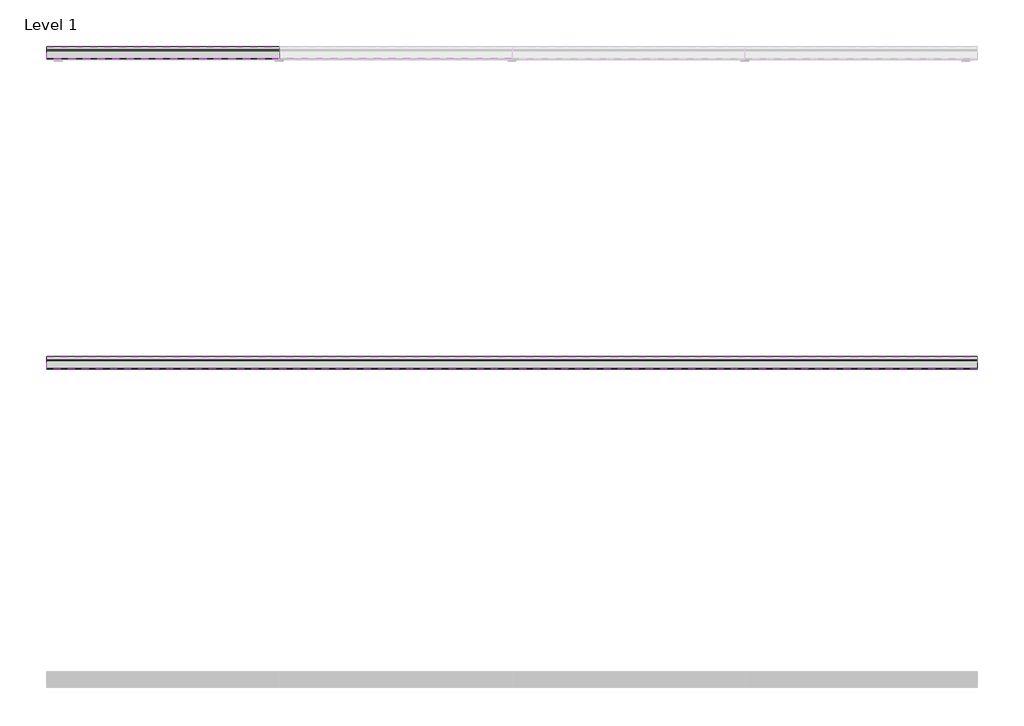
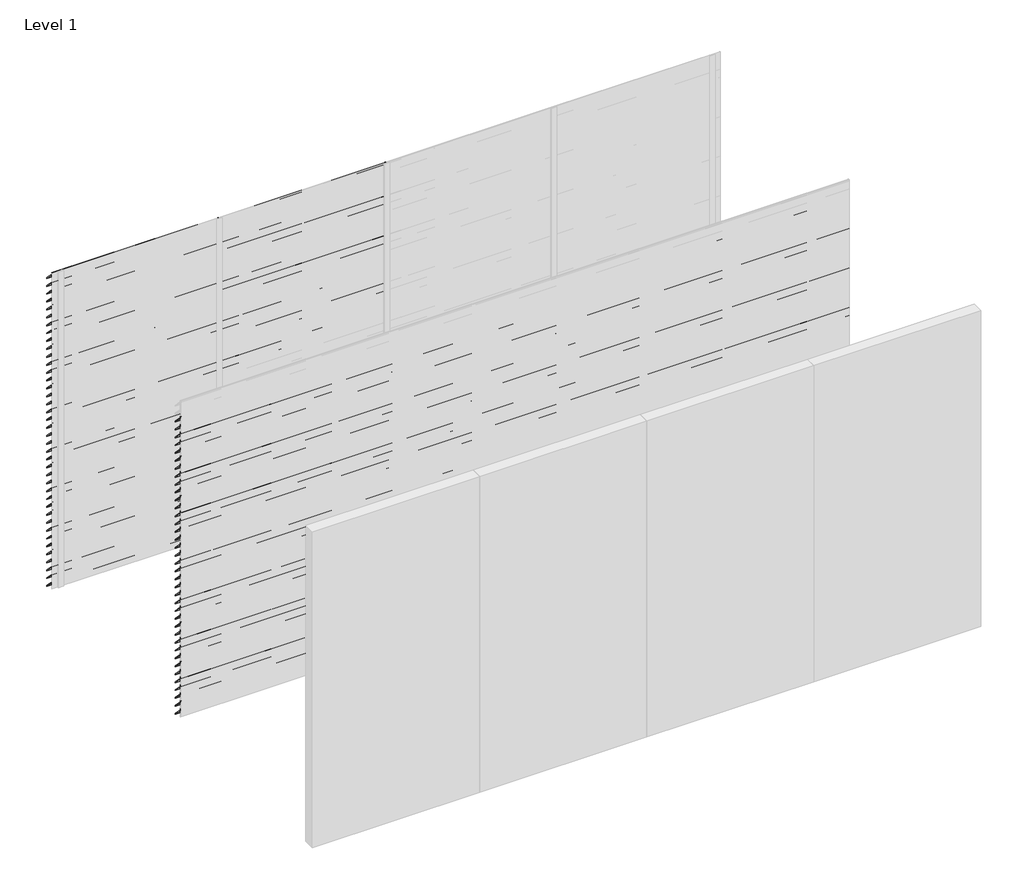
# One storey, part 8 of 9: 98 proxies.
"""IFC4 building model written with IfcOpenShell, lengths in millimetres."""

from ifc_helpers import new_model, si_unit, frame, origin, place, context, project, spatial, polyline, outline, extrude, element, save

model = new_model("IFC4")

# Units and contexts
model_context = context("Model", 3, world=origin())
ifc_project = project(units=[si_unit("LENGTHUNIT", "METRE", prefix="MILLI")], contexts=[model_context])

# Site, building, storey
site = spatial("IfcSite", under=ifc_project)
building = spatial("IfcBuilding", under=site)
storey = spatial("IfcBuildingStorey", under=building, Name="Level 1", Elevation=0.0)

# Proxies
placement = place(None, origin())
element("IfcBuildingElementProxy", 1, Name="Wall Sweeps", at=placement, inside=storey, context=model_context, shape_type="SweptSolid", body=[
    extrude(outline(polyline([(5.0, 3000.0), (5.0, 2987.7713645), (83.0, 2907.0), (83.0, 2898.0), (3.0, 2980.8424251), (3.0, 3000.0), (5.0, 3000.0)])), frame((0.0, 0.0, 0.0), z_axis=(1.0, 0.0, 0.0), x_axis=(0.0, 1.0, 0.0)), (0.0, 0.0, 1.0), 1500.0),
])
element("IfcBuildingElementProxy", 2, Name="Wall Sweeps", at=placement, inside=storey, context=model_context, shape_type="SweptSolid", body=[
    extrude(outline(polyline([(5.0, 2925.0), (5.0, 2912.7713645), (83.0, 2832.0), (83.0, 2823.0), (3.0, 2905.8424251), (3.0, 2925.0), (5.0, 2925.0)])), frame((0.0, 0.0, 0.0), z_axis=(1.0, 0.0, 0.0), x_axis=(0.0, 1.0, 0.0)), (0.0, 0.0, 1.0), 1500.0),
])
element("IfcBuildingElementProxy", 3, Name="Wall Sweeps", at=placement, inside=storey, context=model_context, shape_type="SweptSolid", body=[
    extrude(outline(polyline([(5.0, 2850.0), (5.0, 2837.7713645), (83.0, 2757.0), (83.0, 2748.0), (3.0, 2830.8424251), (3.0, 2850.0), (5.0, 2850.0)])), frame((0.0, 0.0, 0.0), z_axis=(1.0, 0.0, 0.0), x_axis=(0.0, 1.0, 0.0)), (0.0, 0.0, 1.0), 1500.0),
])
element("IfcBuildingElementProxy", 4, Name="Wall Sweeps", at=placement, inside=storey, context=model_context, shape_type="SweptSolid", body=[
    extrude(outline(polyline([(5.0, 2775.0), (5.0, 2762.7713645), (83.0, 2682.0), (83.0, 2673.0), (3.0, 2755.8424251), (3.0, 2775.0), (5.0, 2775.0)])), frame((0.0, 0.0, 0.0), z_axis=(1.0, 0.0, 0.0), x_axis=(0.0, 1.0, 0.0)), (0.0, 0.0, 1.0), 1500.0),
])
element("IfcBuildingElementProxy", 5, Name="Wall Sweeps", at=placement, inside=storey, context=model_context, shape_type="SweptSolid", body=[
    extrude(outline(polyline([(5.0, 2700.0), (5.0, 2687.7713645), (83.0, 2607.0), (83.0, 2598.0), (3.0, 2680.8424251), (3.0, 2700.0), (5.0, 2700.0)])), frame((0.0, 0.0, 0.0), z_axis=(1.0, 0.0, 0.0), x_axis=(0.0, 1.0, 0.0)), (0.0, 0.0, 1.0), 1500.0),
])
element("IfcBuildingElementProxy", 6, Name="Wall Sweeps", at=placement, inside=storey, context=model_context, shape_type="SweptSolid", body=[
    extrude(outline(polyline([(5.0, 2625.0), (5.0, 2612.7713645), (83.0, 2532.0), (83.0, 2523.0), (3.0, 2605.8424251), (3.0, 2625.0), (5.0, 2625.0)])), frame((0.0, 0.0, 0.0), z_axis=(1.0, 0.0, 0.0), x_axis=(0.0, 1.0, 0.0)), (0.0, 0.0, 1.0), 1500.0),
])
element("IfcBuildingElementProxy", 7, Name="Wall Sweeps", at=placement, inside=storey, context=model_context, shape_type="SweptSolid", body=[
    extrude(outline(polyline([(5.0, 2550.0), (5.0, 2537.7713645), (83.0, 2457.0), (83.0, 2448.0), (3.0, 2530.8424251), (3.0, 2550.0), (5.0, 2550.0)])), frame((0.0, 0.0, 0.0), z_axis=(1.0, 0.0, 0.0), x_axis=(0.0, 1.0, 0.0)), (0.0, 0.0, 1.0), 1500.0),
])
element("IfcBuildingElementProxy", 8, Name="Wall Sweeps", at=placement, inside=storey, context=model_context, shape_type="SweptSolid", body=[
    extrude(outline(polyline([(5.0, 2475.0), (5.0, 2462.7713645), (83.0, 2382.0), (83.0, 2373.0), (3.0, 2455.8424251), (3.0, 2475.0), (5.0, 2475.0)])), frame((0.0, 0.0, 0.0), z_axis=(1.0, 0.0, 0.0), x_axis=(0.0, 1.0, 0.0)), (0.0, 0.0, 1.0), 1500.0),
])
element("IfcBuildingElementProxy", 9, Name="Wall Sweeps", at=placement, inside=storey, context=model_context, shape_type="SweptSolid", body=[
    extrude(outline(polyline([(5.0, 2400.0), (5.0, 2387.7713645), (83.0, 2307.0), (83.0, 2298.0), (3.0, 2380.8424251), (3.0, 2400.0), (5.0, 2400.0)])), frame((0.0, 0.0, 0.0), z_axis=(1.0, 0.0, 0.0), x_axis=(0.0, 1.0, 0.0)), (0.0, 0.0, 1.0), 1500.0),
])
element("IfcBuildingElementProxy", 10, Name="Wall Sweeps", at=placement, inside=storey, context=model_context, shape_type="SweptSolid", body=[
    extrude(outline(polyline([(5.0, 2325.0), (5.0, 2312.7713645), (83.0, 2232.0), (83.0, 2223.0), (3.0, 2305.8424251), (3.0, 2325.0), (5.0, 2325.0)])), frame((0.0, 0.0, 0.0), z_axis=(1.0, 0.0, 0.0), x_axis=(0.0, 1.0, 0.0)), (0.0, 0.0, 1.0), 1500.0),
])
element("IfcBuildingElementProxy", 11, Name="Wall Sweeps", at=placement, inside=storey, context=model_context, shape_type="SweptSolid", body=[
    extrude(outline(polyline([(5.0, 2250.0), (5.0, 2237.7713645), (83.0, 2157.0), (83.0, 2148.0), (3.0, 2230.8424251), (3.0, 2250.0), (5.0, 2250.0)])), frame((0.0, 0.0, 0.0), z_axis=(1.0, 0.0, 0.0), x_axis=(0.0, 1.0, 0.0)), (0.0, 0.0, 1.0), 1500.0),
])
element("IfcBuildingElementProxy", 12, Name="Wall Sweeps", at=placement, inside=storey, context=model_context, shape_type="SweptSolid", body=[
    extrude(outline(polyline([(5.0, 2175.0), (5.0, 2162.7713645), (83.0, 2082.0), (83.0, 2073.0), (3.0, 2155.8424251), (3.0, 2175.0), (5.0, 2175.0)])), frame((0.0, 0.0, 0.0), z_axis=(1.0, 0.0, 0.0), x_axis=(0.0, 1.0, 0.0)), (0.0, 0.0, 1.0), 1500.0),
])
element("IfcBuildingElementProxy", 13, Name="Wall Sweeps", at=placement, inside=storey, context=model_context, shape_type="SweptSolid", body=[
    extrude(outline(polyline([(5.0, 2100.0), (5.0, 2087.7713645), (83.0, 2007.0), (83.0, 1998.0), (3.0, 2080.8424251), (3.0, 2100.0), (5.0, 2100.0)])), frame((0.0, 0.0, 0.0), z_axis=(1.0, 0.0, 0.0), x_axis=(0.0, 1.0, 0.0)), (0.0, 0.0, 1.0), 1500.0),
])
element("IfcBuildingElementProxy", 14, Name="Wall Sweeps", at=placement, inside=storey, context=model_context, shape_type="SweptSolid", body=[
    extrude(outline(polyline([(5.0, 2025.0), (5.0, 2012.7713645), (83.0, 1932.0), (83.0, 1923.0), (3.0, 2005.8424251), (3.0, 2025.0), (5.0, 2025.0)])), frame((0.0, 0.0, 0.0), z_axis=(1.0, 0.0, 0.0), x_axis=(0.0, 1.0, 0.0)), (0.0, 0.0, 1.0), 1500.0),
])
element("IfcBuildingElementProxy", 15, Name="Wall Sweeps", at=placement, inside=storey, context=model_context, shape_type="SweptSolid", body=[
    extrude(outline(polyline([(5.0, 1950.0), (5.0, 1937.7713645), (83.0, 1857.0), (83.0, 1848.0), (3.0, 1930.8424251), (3.0, 1950.0), (5.0, 1950.0)])), frame((0.0, 0.0, 0.0), z_axis=(1.0, 0.0, 0.0), x_axis=(0.0, 1.0, 0.0)), (0.0, 0.0, 1.0), 1500.0),
])
element("IfcBuildingElementProxy", 16, Name="Wall Sweeps", at=placement, inside=storey, context=model_context, shape_type="SweptSolid", body=[
    extrude(outline(polyline([(5.0, 1875.0), (5.0, 1862.7713645), (83.0, 1782.0), (83.0, 1773.0), (3.0, 1855.8424251), (3.0, 1875.0), (5.0, 1875.0)])), frame((0.0, 0.0, 0.0), z_axis=(1.0, 0.0, 0.0), x_axis=(0.0, 1.0, 0.0)), (0.0, 0.0, 1.0), 1500.0),
])
element("IfcBuildingElementProxy", 17, Name="Wall Sweeps", at=placement, inside=storey, context=model_context, shape_type="SweptSolid", body=[
    extrude(outline(polyline([(5.0, 1800.0), (5.0, 1787.7713645), (83.0, 1707.0), (83.0, 1698.0), (3.0, 1780.8424251), (3.0, 1800.0), (5.0, 1800.0)])), frame((0.0, 0.0, 0.0), z_axis=(1.0, 0.0, 0.0), x_axis=(0.0, 1.0, 0.0)), (0.0, 0.0, 1.0), 1500.0),
])
element("IfcBuildingElementProxy", 18, Name="Wall Sweeps", at=placement, inside=storey, context=model_context, shape_type="SweptSolid", body=[
    extrude(outline(polyline([(5.0, 1725.0), (5.0, 1712.7713645), (83.0, 1632.0), (83.0, 1623.0), (3.0, 1705.8424251), (3.0, 1725.0), (5.0, 1725.0)])), frame((0.0, 0.0, 0.0), z_axis=(1.0, 0.0, 0.0), x_axis=(0.0, 1.0, 0.0)), (0.0, 0.0, 1.0), 1500.0),
])
element("IfcBuildingElementProxy", 19, Name="Wall Sweeps", at=placement, inside=storey, context=model_context, shape_type="SweptSolid", body=[
    extrude(outline(polyline([(5.0, 1650.0), (5.0, 1637.7713645), (83.0, 1557.0), (83.0, 1548.0), (3.0, 1630.8424251), (3.0, 1650.0), (5.0, 1650.0)])), frame((0.0, 0.0, 0.0), z_axis=(1.0, 0.0, 0.0), x_axis=(0.0, 1.0, 0.0)), (0.0, 0.0, 1.0), 1500.0),
])
element("IfcBuildingElementProxy", 20, Name="Wall Sweeps", at=placement, inside=storey, context=model_context, shape_type="SweptSolid", body=[
    extrude(outline(polyline([(5.0, 1575.0), (5.0, 1562.7713645), (83.0, 1482.0), (83.0, 1473.0), (3.0, 1555.8424251), (3.0, 1575.0), (5.0, 1575.0)])), frame((0.0, 0.0, 0.0), z_axis=(1.0, 0.0, 0.0), x_axis=(0.0, 1.0, 0.0)), (0.0, 0.0, 1.0), 1500.0),
])
element("IfcBuildingElementProxy", 21, Name="Wall Sweeps", at=placement, inside=storey, context=model_context, shape_type="SweptSolid", body=[
    extrude(outline(polyline([(5.0, 1500.0), (5.0, 1487.7713645), (83.0, 1407.0), (83.0, 1398.0), (3.0, 1480.8424251), (3.0, 1500.0), (5.0, 1500.0)])), frame((0.0, 0.0, 0.0), z_axis=(1.0, 0.0, 0.0), x_axis=(0.0, 1.0, 0.0)), (0.0, 0.0, 1.0), 1500.0),
])
element("IfcBuildingElementProxy", 22, Name="Wall Sweeps", at=placement, inside=storey, context=model_context, shape_type="SweptSolid", body=[
    extrude(outline(polyline([(5.0, 1425.0), (5.0, 1412.7713645), (83.0, 1332.0), (83.0, 1323.0), (3.0, 1405.8424251), (3.0, 1425.0), (5.0, 1425.0)])), frame((0.0, 0.0, 0.0), z_axis=(1.0, 0.0, 0.0), x_axis=(0.0, 1.0, 0.0)), (0.0, 0.0, 1.0), 1500.0),
])
element("IfcBuildingElementProxy", 23, Name="Wall Sweeps", at=placement, inside=storey, context=model_context, shape_type="SweptSolid", body=[
    extrude(outline(polyline([(5.0, 1350.0), (5.0, 1337.7713645), (83.0, 1257.0), (83.0, 1248.0), (3.0, 1330.8424251), (3.0, 1350.0), (5.0, 1350.0)])), frame((0.0, 0.0, 0.0), z_axis=(1.0, 0.0, 0.0), x_axis=(0.0, 1.0, 0.0)), (0.0, 0.0, 1.0), 1500.0),
])
element("IfcBuildingElementProxy", 24, Name="Wall Sweeps", at=placement, inside=storey, context=model_context, shape_type="SweptSolid", body=[
    extrude(outline(polyline([(5.0, 1275.0), (5.0, 1262.7713645), (83.0, 1182.0), (83.0, 1173.0), (3.0, 1255.8424251), (3.0, 1275.0), (5.0, 1275.0)])), frame((0.0, 0.0, 0.0), z_axis=(1.0, 0.0, 0.0), x_axis=(0.0, 1.0, 0.0)), (0.0, 0.0, 1.0), 1500.0),
])
element("IfcBuildingElementProxy", 25, Name="Wall Sweeps", at=placement, inside=storey, context=model_context, shape_type="SweptSolid", body=[
    extrude(outline(polyline([(5.0, 1200.0), (5.0, 1187.7713645), (83.0, 1107.0), (83.0, 1098.0), (3.0, 1180.8424251), (3.0, 1200.0), (5.0, 1200.0)])), frame((0.0, 0.0, 0.0), z_axis=(1.0, 0.0, 0.0), x_axis=(0.0, 1.0, 0.0)), (0.0, 0.0, 1.0), 1500.0),
])
element("IfcBuildingElementProxy", 26, Name="Wall Sweeps", at=placement, inside=storey, context=model_context, shape_type="SweptSolid", body=[
    extrude(outline(polyline([(5.0, 1125.0), (5.0, 1112.7713645), (83.0, 1032.0), (83.0, 1023.0), (3.0, 1105.8424251), (3.0, 1125.0), (5.0, 1125.0)])), frame((0.0, 0.0, 0.0), z_axis=(1.0, 0.0, 0.0), x_axis=(0.0, 1.0, 0.0)), (0.0, 0.0, 1.0), 1500.0),
])
element("IfcBuildingElementProxy", 27, Name="Wall Sweeps", at=placement, inside=storey, context=model_context, shape_type="SweptSolid", body=[
    extrude(outline(polyline([(5.0, 1050.0), (5.0, 1037.7713645), (83.0, 957.0), (83.0, 948.0), (3.0, 1030.8424251), (3.0, 1050.0), (5.0, 1050.0)])), frame((0.0, 0.0, 0.0), z_axis=(1.0, 0.0, 0.0), x_axis=(0.0, 1.0, 0.0)), (0.0, 0.0, 1.0), 1500.0),
])
element("IfcBuildingElementProxy", 28, Name="Wall Sweeps", at=placement, inside=storey, context=model_context, shape_type="SweptSolid", body=[
    extrude(outline(polyline([(5.0, 975.0), (5.0, 962.7713645), (83.0, 882.0), (83.0, 873.0), (3.0, 955.8424251), (3.0, 975.0), (5.0, 975.0)])), frame((0.0, 0.0, 0.0), z_axis=(1.0, 0.0, 0.0), x_axis=(0.0, 1.0, 0.0)), (0.0, 0.0, 1.0), 1500.0),
])
element("IfcBuildingElementProxy", 29, Name="Wall Sweeps", at=placement, inside=storey, context=model_context, shape_type="SweptSolid", body=[
    extrude(outline(polyline([(5.0, 900.0), (5.0, 887.7713645), (83.0, 807.0), (83.0, 798.0), (3.0, 880.8424251), (3.0, 900.0), (5.0, 900.0)])), frame((0.0, 0.0, 0.0), z_axis=(1.0, 0.0, 0.0), x_axis=(0.0, 1.0, 0.0)), (0.0, 0.0, 1.0), 1500.0),
])
element("IfcBuildingElementProxy", 30, Name="Wall Sweeps", at=placement, inside=storey, context=model_context, shape_type="SweptSolid", body=[
    extrude(outline(polyline([(5.0, 825.0), (5.0, 812.7713645), (83.0, 732.0), (83.0, 723.0), (3.0, 805.8424251), (3.0, 825.0), (5.0, 825.0)])), frame((0.0, 0.0, 0.0), z_axis=(1.0, 0.0, 0.0), x_axis=(0.0, 1.0, 0.0)), (0.0, 0.0, 1.0), 1500.0),
])
element("IfcBuildingElementProxy", 31, Name="Wall Sweeps", at=placement, inside=storey, context=model_context, shape_type="SweptSolid", body=[
    extrude(outline(polyline([(5.0, 750.0), (5.0, 737.7713645), (83.0, 657.0), (83.0, 648.0), (3.0, 730.8424251), (3.0, 750.0), (5.0, 750.0)])), frame((0.0, 0.0, 0.0), z_axis=(1.0, 0.0, 0.0), x_axis=(0.0, 1.0, 0.0)), (0.0, 0.0, 1.0), 1500.0),
])
element("IfcBuildingElementProxy", 32, Name="Wall Sweeps", at=placement, inside=storey, context=model_context, shape_type="SweptSolid", body=[
    extrude(outline(polyline([(5.0, 675.0), (5.0, 662.7713645), (83.0, 582.0), (83.0, 573.0), (3.0, 655.8424251), (3.0, 675.0), (5.0, 675.0)])), frame((0.0, 0.0, 0.0), z_axis=(1.0, 0.0, 0.0), x_axis=(0.0, 1.0, 0.0)), (0.0, 0.0, 1.0), 1500.0),
])
element("IfcBuildingElementProxy", 33, Name="Wall Sweeps", at=placement, inside=storey, context=model_context, shape_type="SweptSolid", body=[
    extrude(outline(polyline([(5.0, 600.0), (5.0, 587.7713645), (83.0, 507.0), (83.0, 498.0), (3.0, 580.8424251), (3.0, 600.0), (5.0, 600.0)])), frame((0.0, 0.0, 0.0), z_axis=(1.0, 0.0, 0.0), x_axis=(0.0, 1.0, 0.0)), (0.0, 0.0, 1.0), 1500.0),
])
element("IfcBuildingElementProxy", 34, Name="Wall Sweeps", at=placement, inside=storey, context=model_context, shape_type="SweptSolid", body=[
    extrude(outline(polyline([(5.0, 525.0), (5.0, 512.7713645), (83.0, 432.0), (83.0, 423.0), (3.0, 505.8424251), (3.0, 525.0), (5.0, 525.0)])), frame((0.0, 0.0, 0.0), z_axis=(1.0, 0.0, 0.0), x_axis=(0.0, 1.0, 0.0)), (0.0, 0.0, 1.0), 1500.0),
])
element("IfcBuildingElementProxy", 35, Name="Wall Sweeps", at=placement, inside=storey, context=model_context, shape_type="SweptSolid", body=[
    extrude(outline(polyline([(5.0, 450.0), (5.0, 437.7713645), (83.0, 357.0), (83.0, 348.0), (3.0, 430.8424251), (3.0, 450.0), (5.0, 450.0)])), frame((0.0, 0.0, 0.0), z_axis=(1.0, 0.0, 0.0), x_axis=(0.0, 1.0, 0.0)), (0.0, 0.0, 1.0), 1500.0),
])
element("IfcBuildingElementProxy", 36, Name="Wall Sweeps", at=placement, inside=storey, context=model_context, shape_type="SweptSolid", body=[
    extrude(outline(polyline([(5.0, 375.0), (5.0, 362.7713645), (83.0, 282.0), (83.0, 273.0), (3.0, 355.8424251), (3.0, 375.0), (5.0, 375.0)])), frame((0.0, 0.0, 0.0), z_axis=(1.0, 0.0, 0.0), x_axis=(0.0, 1.0, 0.0)), (0.0, 0.0, 1.0), 1500.0),
])
element("IfcBuildingElementProxy", 37, Name="Wall Sweeps", at=placement, inside=storey, context=model_context, shape_type="SweptSolid", body=[
    extrude(outline(polyline([(5.0, 300.0), (5.0, 287.7713645), (83.0, 207.0), (83.0, 198.0), (3.0, 280.8424251), (3.0, 300.0), (5.0, 300.0)])), frame((0.0, 0.0, 0.0), z_axis=(1.0, 0.0, 0.0), x_axis=(0.0, 1.0, 0.0)), (0.0, 0.0, 1.0), 1500.0),
])
element("IfcBuildingElementProxy", 38, Name="Wall Sweeps", at=placement, inside=storey, context=model_context, shape_type="SweptSolid", body=[
    extrude(outline(polyline([(5.0, 225.0), (5.0, 212.7713645), (83.0, 132.0), (83.0, 123.0), (3.0, 205.8424251), (3.0, 225.0), (5.0, 225.0)])), frame((0.0, 0.0, 0.0), z_axis=(1.0, 0.0, 0.0), x_axis=(0.0, 1.0, 0.0)), (0.0, 0.0, 1.0), 1500.0),
])
element("IfcBuildingElementProxy", 39, Name="Wall Sweeps", at=placement, inside=storey, context=model_context, shape_type="SweptSolid", body=[
    extrude(outline(polyline([(5.0, 150.0), (5.0, 137.7713645), (83.0, 57.0), (83.0, 48.0), (3.0, 130.8424251), (3.0, 150.0), (5.0, 150.0)])), frame((0.0, 0.0, 0.0), z_axis=(1.0, 0.0, 0.0), x_axis=(0.0, 1.0, 0.0)), (0.0, 0.0, 1.0), 1500.0),
])
element("IfcBuildingElementProxy", 40, Name="Wall Sweeps", at=placement, inside=storey, context=model_context, shape_type="SweptSolid", body=[
    extrude(outline(polyline([(5.0, 75.0), (5.0, 62.7713645), (83.0, -18.0), (83.0, -27.0), (3.0, 55.8424251), (3.0, 75.0), (5.0, 75.0)])), frame((0.0, 0.0, 0.0), z_axis=(1.0, 0.0, 0.0), x_axis=(0.0, 1.0, 0.0)), (0.0, 0.0, 1.0), 1500.0),
])
element("IfcBuildingElementProxy", 41, Name="Wall Sweeps", at=placement, inside=storey, context=model_context, shape_type="SweptSolid", body=[
    extrude(outline(polyline([(5.0, 3000.0), (5.0, 2987.7713645), (83.0, 2907.0), (83.0, 2898.0), (3.0, 2980.8424251), (3.0, 3000.0), (5.0, 3000.0)])), frame((1500.0, 0.0, 0.0), z_axis=(1.0, 0.0, 0.0), x_axis=(0.0, 1.0, 0.0)), (0.0, 0.0, 1.0), 1500.0),
])
element("IfcBuildingElementProxy", 42, Name="Wall Sweeps", at=placement, inside=storey, context=model_context, shape_type="SweptSolid", body=[
    extrude(outline(polyline([(5.0, 2925.0), (5.0, 2912.7713645), (83.0, 2832.0), (83.0, 2823.0), (3.0, 2905.8424251), (3.0, 2925.0), (5.0, 2925.0)])), frame((1500.0, 0.0, 0.0), z_axis=(1.0, 0.0, 0.0), x_axis=(0.0, 1.0, 0.0)), (0.0, 0.0, 1.0), 1500.0),
])
element("IfcBuildingElementProxy", 43, Name="Wall Sweeps", at=placement, inside=storey, context=model_context, shape_type="SweptSolid", body=[
    extrude(outline(polyline([(5.0, 2850.0), (5.0, 2837.7713645), (83.0, 2757.0), (83.0, 2748.0), (3.0, 2830.8424251), (3.0, 2850.0), (5.0, 2850.0)])), frame((1500.0, 0.0, 0.0), z_axis=(1.0, 0.0, 0.0), x_axis=(0.0, 1.0, 0.0)), (0.0, 0.0, 1.0), 1500.0),
])
element("IfcBuildingElementProxy", 44, Name="Wall Sweeps", at=placement, inside=storey, context=model_context, shape_type="SweptSolid", body=[
    extrude(outline(polyline([(5.0, 2775.0), (5.0, 2762.7713645), (83.0, 2682.0), (83.0, 2673.0), (3.0, 2755.8424251), (3.0, 2775.0), (5.0, 2775.0)])), frame((1500.0, 0.0, 0.0), z_axis=(1.0, 0.0, 0.0), x_axis=(0.0, 1.0, 0.0)), (0.0, 0.0, 1.0), 1500.0),
])
element("IfcBuildingElementProxy", 45, Name="Wall Sweeps", at=placement, inside=storey, context=model_context, shape_type="SweptSolid", body=[
    extrude(outline(polyline([(5.0, 2700.0), (5.0, 2687.7713645), (83.0, 2607.0), (83.0, 2598.0), (3.0, 2680.8424251), (3.0, 2700.0), (5.0, 2700.0)])), frame((1500.0, 0.0, 0.0), z_axis=(1.0, 0.0, 0.0), x_axis=(0.0, 1.0, 0.0)), (0.0, 0.0, 1.0), 1500.0),
])
element("IfcBuildingElementProxy", 46, Name="Wall Sweeps", at=placement, inside=storey, context=model_context, shape_type="SweptSolid", body=[
    extrude(outline(polyline([(5.0, 2625.0), (5.0, 2612.7713645), (83.0, 2532.0), (83.0, 2523.0), (3.0, 2605.8424251), (3.0, 2625.0), (5.0, 2625.0)])), frame((1500.0, 0.0, 0.0), z_axis=(1.0, 0.0, 0.0), x_axis=(0.0, 1.0, 0.0)), (0.0, 0.0, 1.0), 1500.0),
])
element("IfcBuildingElementProxy", 47, Name="Wall Sweeps", at=placement, inside=storey, context=model_context, shape_type="SweptSolid", body=[
    extrude(outline(polyline([(5.0, 2550.0), (5.0, 2537.7713645), (83.0, 2457.0), (83.0, 2448.0), (3.0, 2530.8424251), (3.0, 2550.0), (5.0, 2550.0)])), frame((1500.0, 0.0, 0.0), z_axis=(1.0, 0.0, 0.0), x_axis=(0.0, 1.0, 0.0)), (0.0, 0.0, 1.0), 1500.0),
])
element("IfcBuildingElementProxy", 48, Name="Wall Sweeps", at=placement, inside=storey, context=model_context, shape_type="SweptSolid", body=[
    extrude(outline(polyline([(5.0, 2475.0), (5.0, 2462.7713645), (83.0, 2382.0), (83.0, 2373.0), (3.0, 2455.8424251), (3.0, 2475.0), (5.0, 2475.0)])), frame((1500.0, 0.0, 0.0), z_axis=(1.0, 0.0, 0.0), x_axis=(0.0, 1.0, 0.0)), (0.0, 0.0, 1.0), 1500.0),
])
element("IfcBuildingElementProxy", 49, Name="Wall Sweeps", at=placement, inside=storey, context=model_context, shape_type="SweptSolid", body=[
    extrude(outline(polyline([(5.0, 2400.0), (5.0, 2387.7713645), (83.0, 2307.0), (83.0, 2298.0), (3.0, 2380.8424251), (3.0, 2400.0), (5.0, 2400.0)])), frame((1500.0, 0.0, 0.0), z_axis=(1.0, 0.0, 0.0), x_axis=(0.0, 1.0, 0.0)), (0.0, 0.0, 1.0), 1500.0),
])
element("IfcBuildingElementProxy", 50, Name="Wall Sweeps", at=placement, inside=storey, context=model_context, shape_type="SweptSolid", body=[
    extrude(outline(polyline([(5.0, 2325.0), (5.0, 2312.7713645), (83.0, 2232.0), (83.0, 2223.0), (3.0, 2305.8424251), (3.0, 2325.0), (5.0, 2325.0)])), frame((1500.0, 0.0, 0.0), z_axis=(1.0, 0.0, 0.0), x_axis=(0.0, 1.0, 0.0)), (0.0, 0.0, 1.0), 1500.0),
])
element("IfcBuildingElementProxy", 51, Name="Wall Sweeps", at=placement, inside=storey, context=model_context, shape_type="SweptSolid", body=[
    extrude(outline(polyline([(5.0, 2250.0), (5.0, 2237.7713645), (83.0, 2157.0), (83.0, 2148.0), (3.0, 2230.8424251), (3.0, 2250.0), (5.0, 2250.0)])), frame((1500.0, 0.0, 0.0), z_axis=(1.0, 0.0, 0.0), x_axis=(0.0, 1.0, 0.0)), (0.0, 0.0, 1.0), 1500.0),
])
element("IfcBuildingElementProxy", 52, Name="Wall Sweeps", at=placement, inside=storey, context=model_context, shape_type="SweptSolid", body=[
    extrude(outline(polyline([(5.0, 2175.0), (5.0, 2162.7713645), (83.0, 2082.0), (83.0, 2073.0), (3.0, 2155.8424251), (3.0, 2175.0), (5.0, 2175.0)])), frame((1500.0, 0.0, 0.0), z_axis=(1.0, 0.0, 0.0), x_axis=(0.0, 1.0, 0.0)), (0.0, 0.0, 1.0), 1500.0),
])
element("IfcBuildingElementProxy", 53, Name="Wall Sweeps", at=placement, inside=storey, context=model_context, shape_type="SweptSolid", body=[
    extrude(outline(polyline([(5.0, 2100.0), (5.0, 2087.7713645), (83.0, 2007.0), (83.0, 1998.0), (3.0, 2080.8424251), (3.0, 2100.0), (5.0, 2100.0)])), frame((1500.0, 0.0, 0.0), z_axis=(1.0, 0.0, 0.0), x_axis=(0.0, 1.0, 0.0)), (0.0, 0.0, 1.0), 1500.0),
])
element("IfcBuildingElementProxy", 54, Name="Wall Sweeps", at=placement, inside=storey, context=model_context, shape_type="SweptSolid", body=[
    extrude(outline(polyline([(5.0, 2025.0), (5.0, 2012.7713645), (83.0, 1932.0), (83.0, 1923.0), (3.0, 2005.8424251), (3.0, 2025.0), (5.0, 2025.0)])), frame((1500.0, 0.0, 0.0), z_axis=(1.0, 0.0, 0.0), x_axis=(0.0, 1.0, 0.0)), (0.0, 0.0, 1.0), 1500.0),
])
element("IfcBuildingElementProxy", 55, Name="Wall Sweeps", at=placement, inside=storey, context=model_context, shape_type="SweptSolid", body=[
    extrude(outline(polyline([(5.0, 1950.0), (5.0, 1937.7713645), (83.0, 1857.0), (83.0, 1848.0), (3.0, 1930.8424251), (3.0, 1950.0), (5.0, 1950.0)])), frame((1500.0, 0.0, 0.0), z_axis=(1.0, 0.0, 0.0), x_axis=(0.0, 1.0, 0.0)), (0.0, 0.0, 1.0), 1500.0),
])
element("IfcBuildingElementProxy", 56, Name="Wall Sweeps", at=placement, inside=storey, context=model_context, shape_type="SweptSolid", body=[
    extrude(outline(polyline([(5.0, 1875.0), (5.0, 1862.7713645), (83.0, 1782.0), (83.0, 1773.0), (3.0, 1855.8424251), (3.0, 1875.0), (5.0, 1875.0)])), frame((1500.0, 0.0, 0.0), z_axis=(1.0, 0.0, 0.0), x_axis=(0.0, 1.0, 0.0)), (0.0, 0.0, 1.0), 1500.0),
])
element("IfcBuildingElementProxy", 57, Name="Wall Sweeps", at=placement, inside=storey, context=model_context, shape_type="SweptSolid", body=[
    extrude(outline(polyline([(5.0, 1800.0), (5.0, 1787.7713645), (83.0, 1707.0), (83.0, 1698.0), (3.0, 1780.8424251), (3.0, 1800.0), (5.0, 1800.0)])), frame((1500.0, 0.0, 0.0), z_axis=(1.0, 0.0, 0.0), x_axis=(0.0, 1.0, 0.0)), (0.0, 0.0, 1.0), 1500.0),
])
element("IfcBuildingElementProxy", 58, Name="Wall Sweeps", at=placement, inside=storey, context=model_context, shape_type="SweptSolid", body=[
    extrude(outline(polyline([(5.0, 1725.0), (5.0, 1712.7713645), (83.0, 1632.0), (83.0, 1623.0), (3.0, 1705.8424251), (3.0, 1725.0), (5.0, 1725.0)])), frame((1500.0, 0.0, 0.0), z_axis=(1.0, 0.0, 0.0), x_axis=(0.0, 1.0, 0.0)), (0.0, 0.0, 1.0), 1500.0),
])
element("IfcBuildingElementProxy", 59, Name="Wall Sweeps", at=placement, inside=storey, context=model_context, shape_type="SweptSolid", body=[
    extrude(outline(polyline([(5.0, 1650.0), (5.0, 1637.7713645), (83.0, 1557.0), (83.0, 1548.0), (3.0, 1630.8424251), (3.0, 1650.0), (5.0, 1650.0)])), frame((1500.0, 0.0, 0.0), z_axis=(1.0, 0.0, 0.0), x_axis=(0.0, 1.0, 0.0)), (0.0, 0.0, 1.0), 1500.0),
])
element("IfcBuildingElementProxy", 60, Name="Wall Sweeps", at=placement, inside=storey, context=model_context, shape_type="SweptSolid", body=[
    extrude(outline(polyline([(5.0, 1575.0), (5.0, 1562.7713645), (83.0, 1482.0), (83.0, 1473.0), (3.0, 1555.8424251), (3.0, 1575.0), (5.0, 1575.0)])), frame((1500.0, 0.0, 0.0), z_axis=(1.0, 0.0, 0.0), x_axis=(0.0, 1.0, 0.0)), (0.0, 0.0, 1.0), 1500.0),
])
element("IfcBuildingElementProxy", 61, Name="Wall Sweeps", at=placement, inside=storey, context=model_context, shape_type="SweptSolid", body=[
    extrude(outline(polyline([(-1995.0, 2850.0), (-1995.0, 2837.7713645), (-1917.0, 2757.0), (-1917.0, 2748.0), (-1997.0, 2830.8424251), (-1997.0, 2850.0), (-1995.0, 2850.0)])), frame((0.0, 0.0, 0.0), z_axis=(1.0, 0.0, 0.0), x_axis=(0.0, 1.0, 0.0)), (0.0, 0.0, 1.0), 6000.0),
])
element("IfcBuildingElementProxy", 62, Name="Wall Sweeps", at=placement, inside=storey, context=model_context, shape_type="SweptSolid", body=[
    extrude(outline(polyline([(-1995.0, 2775.0), (-1995.0, 2762.7713645), (-1917.0, 2682.0), (-1917.0, 2673.0), (-1997.0, 2755.8424251), (-1997.0, 2775.0), (-1995.0, 2775.0)])), frame((0.0, 0.0, 0.0), z_axis=(1.0, 0.0, 0.0), x_axis=(0.0, 1.0, 0.0)), (0.0, 0.0, 1.0), 6000.0),
])
element("IfcBuildingElementProxy", 63, Name="Wall Sweeps", at=placement, inside=storey, context=model_context, shape_type="SweptSolid", body=[
    extrude(outline(polyline([(-1995.0, 2700.0), (-1995.0, 2687.7713645), (-1917.0, 2607.0), (-1917.0, 2598.0), (-1997.0, 2680.8424251), (-1997.0, 2700.0), (-1995.0, 2700.0)])), frame((0.0, 0.0, 0.0), z_axis=(1.0, 0.0, 0.0), x_axis=(0.0, 1.0, 0.0)), (0.0, 0.0, 1.0), 6000.0),
])
element("IfcBuildingElementProxy", 64, Name="Wall Sweeps", at=placement, inside=storey, context=model_context, shape_type="SweptSolid", body=[
    extrude(outline(polyline([(-1995.0, 2625.0), (-1995.0, 2612.7713645), (-1917.0, 2532.0), (-1917.0, 2523.0), (-1997.0, 2605.8424251), (-1997.0, 2625.0), (-1995.0, 2625.0)])), frame((0.0, 0.0, 0.0), z_axis=(1.0, 0.0, 0.0), x_axis=(0.0, 1.0, 0.0)), (0.0, 0.0, 1.0), 6000.0),
])
element("IfcBuildingElementProxy", 65, Name="Wall Sweeps", at=placement, inside=storey, context=model_context, shape_type="SweptSolid", body=[
    extrude(outline(polyline([(-1995.0, 2550.0), (-1995.0, 2537.7713645), (-1917.0, 2457.0), (-1917.0, 2448.0), (-1997.0, 2530.8424251), (-1997.0, 2550.0), (-1995.0, 2550.0)])), frame((0.0, 0.0, 0.0), z_axis=(1.0, 0.0, 0.0), x_axis=(0.0, 1.0, 0.0)), (0.0, 0.0, 1.0), 6000.0),
])
element("IfcBuildingElementProxy", 66, Name="Wall Sweeps", at=placement, inside=storey, context=model_context, shape_type="SweptSolid", body=[
    extrude(outline(polyline([(-1995.0, 2475.0), (-1995.0, 2462.7713645), (-1917.0, 2382.0), (-1917.0, 2373.0), (-1997.0, 2455.8424251), (-1997.0, 2475.0), (-1995.0, 2475.0)])), frame((0.0, 0.0, 0.0), z_axis=(1.0, 0.0, 0.0), x_axis=(0.0, 1.0, 0.0)), (0.0, 0.0, 1.0), 6000.0),
])
element("IfcBuildingElementProxy", 67, Name="Wall Sweeps", at=placement, inside=storey, context=model_context, shape_type="SweptSolid", body=[
    extrude(outline(polyline([(-1995.0, 2400.0), (-1995.0, 2387.7713645), (-1917.0, 2307.0), (-1917.0, 2298.0), (-1997.0, 2380.8424251), (-1997.0, 2400.0), (-1995.0, 2400.0)])), frame((0.0, 0.0, 0.0), z_axis=(1.0, 0.0, 0.0), x_axis=(0.0, 1.0, 0.0)), (0.0, 0.0, 1.0), 6000.0),
])
element("IfcBuildingElementProxy", 68, Name="Wall Sweeps", at=placement, inside=storey, context=model_context, shape_type="SweptSolid", body=[
    extrude(outline(polyline([(-1995.0, 2325.0), (-1995.0, 2312.7713645), (-1917.0, 2232.0), (-1917.0, 2223.0), (-1997.0, 2305.8424251), (-1997.0, 2325.0), (-1995.0, 2325.0)])), frame((0.0, 0.0, 0.0), z_axis=(1.0, 0.0, 0.0), x_axis=(0.0, 1.0, 0.0)), (0.0, 0.0, 1.0), 6000.0),
])
element("IfcBuildingElementProxy", 69, Name="Wall Sweeps", at=placement, inside=storey, context=model_context, shape_type="SweptSolid", body=[
    extrude(outline(polyline([(-1995.0, 2250.0), (-1995.0, 2237.7713645), (-1917.0, 2157.0), (-1917.0, 2148.0), (-1997.0, 2230.8424251), (-1997.0, 2250.0), (-1995.0, 2250.0)])), frame((0.0, 0.0, 0.0), z_axis=(1.0, 0.0, 0.0), x_axis=(0.0, 1.0, 0.0)), (0.0, 0.0, 1.0), 6000.0),
])
element("IfcBuildingElementProxy", 70, Name="Wall Sweeps", at=placement, inside=storey, context=model_context, shape_type="SweptSolid", body=[
    extrude(outline(polyline([(-1995.0, 2175.0), (-1995.0, 2162.7713645), (-1917.0, 2082.0), (-1917.0, 2073.0), (-1997.0, 2155.8424251), (-1997.0, 2175.0), (-1995.0, 2175.0)])), frame((0.0, 0.0, 0.0), z_axis=(1.0, 0.0, 0.0), x_axis=(0.0, 1.0, 0.0)), (0.0, 0.0, 1.0), 6000.0),
])
element("IfcBuildingElementProxy", 71, Name="Wall Sweeps", at=placement, inside=storey, context=model_context, shape_type="SweptSolid", body=[
    extrude(outline(polyline([(-1995.0, 2100.0), (-1995.0, 2087.7713645), (-1917.0, 2007.0), (-1917.0, 1998.0), (-1997.0, 2080.8424251), (-1997.0, 2100.0), (-1995.0, 2100.0)])), frame((0.0, 0.0, 0.0), z_axis=(1.0, 0.0, 0.0), x_axis=(0.0, 1.0, 0.0)), (0.0, 0.0, 1.0), 6000.0),
])
element("IfcBuildingElementProxy", 72, Name="Wall Sweeps", at=placement, inside=storey, context=model_context, shape_type="SweptSolid", body=[
    extrude(outline(polyline([(-1995.0, 2025.0), (-1995.0, 2012.7713645), (-1917.0, 1932.0), (-1917.0, 1923.0), (-1997.0, 2005.8424251), (-1997.0, 2025.0), (-1995.0, 2025.0)])), frame((0.0, 0.0, 0.0), z_axis=(1.0, 0.0, 0.0), x_axis=(0.0, 1.0, 0.0)), (0.0, 0.0, 1.0), 6000.0),
])
element("IfcBuildingElementProxy", 73, Name="Wall Sweeps", at=placement, inside=storey, context=model_context, shape_type="SweptSolid", body=[
    extrude(outline(polyline([(-1995.0, 1950.0), (-1995.0, 1937.7713645), (-1917.0, 1857.0), (-1917.0, 1848.0), (-1997.0, 1930.8424251), (-1997.0, 1950.0), (-1995.0, 1950.0)])), frame((0.0, 0.0, 0.0), z_axis=(1.0, 0.0, 0.0), x_axis=(0.0, 1.0, 0.0)), (0.0, 0.0, 1.0), 6000.0),
])
element("IfcBuildingElementProxy", 74, Name="Wall Sweeps", at=placement, inside=storey, context=model_context, shape_type="SweptSolid", body=[
    extrude(outline(polyline([(-1995.0, 1875.0), (-1995.0, 1862.7713645), (-1917.0, 1782.0), (-1917.0, 1773.0), (-1997.0, 1855.8424251), (-1997.0, 1875.0), (-1995.0, 1875.0)])), frame((0.0, 0.0, 0.0), z_axis=(1.0, 0.0, 0.0), x_axis=(0.0, 1.0, 0.0)), (0.0, 0.0, 1.0), 6000.0),
])
element("IfcBuildingElementProxy", 75, Name="Wall Sweeps", at=placement, inside=storey, context=model_context, shape_type="SweptSolid", body=[
    extrude(outline(polyline([(-1995.0, 1800.0), (-1995.0, 1787.7713645), (-1917.0, 1707.0), (-1917.0, 1698.0), (-1997.0, 1780.8424251), (-1997.0, 1800.0), (-1995.0, 1800.0)])), frame((0.0, 0.0, 0.0), z_axis=(1.0, 0.0, 0.0), x_axis=(0.0, 1.0, 0.0)), (0.0, 0.0, 1.0), 6000.0),
])
element("IfcBuildingElementProxy", 76, Name="Wall Sweeps", at=placement, inside=storey, context=model_context, shape_type="SweptSolid", body=[
    extrude(outline(polyline([(-1995.0, 1725.0), (-1995.0, 1712.7713645), (-1917.0, 1632.0), (-1917.0, 1623.0), (-1997.0, 1705.8424251), (-1997.0, 1725.0), (-1995.0, 1725.0)])), frame((0.0, 0.0, 0.0), z_axis=(1.0, 0.0, 0.0), x_axis=(0.0, 1.0, 0.0)), (0.0, 0.0, 1.0), 6000.0),
])
element("IfcBuildingElementProxy", 77, Name="Wall Sweeps", at=placement, inside=storey, context=model_context, shape_type="SweptSolid", body=[
    extrude(outline(polyline([(-1995.0, 1650.0), (-1995.0, 1637.7713645), (-1917.0, 1557.0), (-1917.0, 1548.0), (-1997.0, 1630.8424251), (-1997.0, 1650.0), (-1995.0, 1650.0)])), frame((0.0, 0.0, 0.0), z_axis=(1.0, 0.0, 0.0), x_axis=(0.0, 1.0, 0.0)), (0.0, 0.0, 1.0), 6000.0),
])
element("IfcBuildingElementProxy", 78, Name="Wall Sweeps", at=placement, inside=storey, context=model_context, shape_type="SweptSolid", body=[
    extrude(outline(polyline([(-1995.0, 1575.0), (-1995.0, 1562.7713645), (-1917.0, 1482.0), (-1917.0, 1473.0), (-1997.0, 1555.8424251), (-1997.0, 1575.0), (-1995.0, 1575.0)])), frame((0.0, 0.0, 0.0), z_axis=(1.0, 0.0, 0.0), x_axis=(0.0, 1.0, 0.0)), (0.0, 0.0, 1.0), 6000.0),
])
element("IfcBuildingElementProxy", 79, Name="Wall Sweeps", at=placement, inside=storey, context=model_context, shape_type="SweptSolid", body=[
    extrude(outline(polyline([(-1995.0, 1500.0), (-1995.0, 1487.7713645), (-1917.0, 1407.0), (-1917.0, 1398.0), (-1997.0, 1480.8424251), (-1997.0, 1500.0), (-1995.0, 1500.0)])), frame((0.0, 0.0, 0.0), z_axis=(1.0, 0.0, 0.0), x_axis=(0.0, 1.0, 0.0)), (0.0, 0.0, 1.0), 6000.0),
])
element("IfcBuildingElementProxy", 80, Name="Wall Sweeps", at=placement, inside=storey, context=model_context, shape_type="SweptSolid", body=[
    extrude(outline(polyline([(-1995.0, 1425.0), (-1995.0, 1412.7713645), (-1917.0, 1332.0), (-1917.0, 1323.0), (-1997.0, 1405.8424251), (-1997.0, 1425.0), (-1995.0, 1425.0)])), frame((0.0, 0.0, 0.0), z_axis=(1.0, 0.0, 0.0), x_axis=(0.0, 1.0, 0.0)), (0.0, 0.0, 1.0), 6000.0),
])
element("IfcBuildingElementProxy", 81, Name="Wall Sweeps", at=placement, inside=storey, context=model_context, shape_type="SweptSolid", body=[
    extrude(outline(polyline([(-1995.0, 1350.0), (-1995.0, 1337.7713645), (-1917.0, 1257.0), (-1917.0, 1248.0), (-1997.0, 1330.8424251), (-1997.0, 1350.0), (-1995.0, 1350.0)])), frame((0.0, 0.0, 0.0), z_axis=(1.0, 0.0, 0.0), x_axis=(0.0, 1.0, 0.0)), (0.0, 0.0, 1.0), 6000.0),
])
element("IfcBuildingElementProxy", 82, Name="Wall Sweeps", at=placement, inside=storey, context=model_context, shape_type="SweptSolid", body=[
    extrude(outline(polyline([(-1995.0, 1275.0), (-1995.0, 1262.7713645), (-1917.0, 1182.0), (-1917.0, 1173.0), (-1997.0, 1255.8424251), (-1997.0, 1275.0), (-1995.0, 1275.0)])), frame((0.0, 0.0, 0.0), z_axis=(1.0, 0.0, 0.0), x_axis=(0.0, 1.0, 0.0)), (0.0, 0.0, 1.0), 6000.0),
])
element("IfcBuildingElementProxy", 83, Name="Wall Sweeps", at=placement, inside=storey, context=model_context, shape_type="SweptSolid", body=[
    extrude(outline(polyline([(-1995.0, 1200.0), (-1995.0, 1187.7713645), (-1917.0, 1107.0), (-1917.0, 1098.0), (-1997.0, 1180.8424251), (-1997.0, 1200.0), (-1995.0, 1200.0)])), frame((0.0, 0.0, 0.0), z_axis=(1.0, 0.0, 0.0), x_axis=(0.0, 1.0, 0.0)), (0.0, 0.0, 1.0), 6000.0),
])
element("IfcBuildingElementProxy", 84, Name="Wall Sweeps", at=placement, inside=storey, context=model_context, shape_type="SweptSolid", body=[
    extrude(outline(polyline([(-1995.0, 1125.0), (-1995.0, 1112.7713645), (-1917.0, 1032.0), (-1917.0, 1023.0), (-1997.0, 1105.8424251), (-1997.0, 1125.0), (-1995.0, 1125.0)])), frame((0.0, 0.0, 0.0), z_axis=(1.0, 0.0, 0.0), x_axis=(0.0, 1.0, 0.0)), (0.0, 0.0, 1.0), 6000.0),
])
element("IfcBuildingElementProxy", 85, Name="Wall Sweeps", at=placement, inside=storey, context=model_context, shape_type="SweptSolid", body=[
    extrude(outline(polyline([(-1995.0, 1050.0), (-1995.0, 1037.7713645), (-1917.0, 957.0), (-1917.0, 948.0), (-1997.0, 1030.8424251), (-1997.0, 1050.0), (-1995.0, 1050.0)])), frame((0.0, 0.0, 0.0), z_axis=(1.0, 0.0, 0.0), x_axis=(0.0, 1.0, 0.0)), (0.0, 0.0, 1.0), 6000.0),
])
element("IfcBuildingElementProxy", 86, Name="Wall Sweeps", at=placement, inside=storey, context=model_context, shape_type="SweptSolid", body=[
    extrude(outline(polyline([(-1995.0, 975.0), (-1995.0, 962.7713645), (-1917.0, 882.0), (-1917.0, 873.0), (-1997.0, 955.8424251), (-1997.0, 975.0), (-1995.0, 975.0)])), frame((0.0, 0.0, 0.0), z_axis=(1.0, 0.0, 0.0), x_axis=(0.0, 1.0, 0.0)), (0.0, 0.0, 1.0), 6000.0),
])
element("IfcBuildingElementProxy", 87, Name="Wall Sweeps", at=placement, inside=storey, context=model_context, shape_type="SweptSolid", body=[
    extrude(outline(polyline([(-1995.0, 900.0), (-1995.0, 887.7713645), (-1917.0, 807.0), (-1917.0, 798.0), (-1997.0, 880.8424251), (-1997.0, 900.0), (-1995.0, 900.0)])), frame((0.0, 0.0, 0.0), z_axis=(1.0, 0.0, 0.0), x_axis=(0.0, 1.0, 0.0)), (0.0, 0.0, 1.0), 6000.0),
])
element("IfcBuildingElementProxy", 88, Name="Wall Sweeps", at=placement, inside=storey, context=model_context, shape_type="SweptSolid", body=[
    extrude(outline(polyline([(-1995.0, 825.0), (-1995.0, 812.7713645), (-1917.0, 732.0), (-1917.0, 723.0), (-1997.0, 805.8424251), (-1997.0, 825.0), (-1995.0, 825.0)])), frame((0.0, 0.0, 0.0), z_axis=(1.0, 0.0, 0.0), x_axis=(0.0, 1.0, 0.0)), (0.0, 0.0, 1.0), 6000.0),
])
element("IfcBuildingElementProxy", 89, Name="Wall Sweeps", at=placement, inside=storey, context=model_context, shape_type="SweptSolid", body=[
    extrude(outline(polyline([(-1995.0, 750.0), (-1995.0, 737.7713645), (-1917.0, 657.0), (-1917.0, 648.0), (-1997.0, 730.8424251), (-1997.0, 750.0), (-1995.0, 750.0)])), frame((0.0, 0.0, 0.0), z_axis=(1.0, 0.0, 0.0), x_axis=(0.0, 1.0, 0.0)), (0.0, 0.0, 1.0), 6000.0),
])
element("IfcBuildingElementProxy", 90, Name="Wall Sweeps", at=placement, inside=storey, context=model_context, shape_type="SweptSolid", body=[
    extrude(outline(polyline([(-1995.0, 675.0), (-1995.0, 662.7713645), (-1917.0, 582.0), (-1917.0, 573.0), (-1997.0, 655.8424251), (-1997.0, 675.0), (-1995.0, 675.0)])), frame((0.0, 0.0, 0.0), z_axis=(1.0, 0.0, 0.0), x_axis=(0.0, 1.0, 0.0)), (0.0, 0.0, 1.0), 6000.0),
])
element("IfcBuildingElementProxy", 91, Name="Wall Sweeps", at=placement, inside=storey, context=model_context, shape_type="SweptSolid", body=[
    extrude(outline(polyline([(-1995.0, 600.0), (-1995.0, 587.7713645), (-1917.0, 507.0), (-1917.0, 498.0), (-1997.0, 580.8424251), (-1997.0, 600.0), (-1995.0, 600.0)])), frame((0.0, 0.0, 0.0), z_axis=(1.0, 0.0, 0.0), x_axis=(0.0, 1.0, 0.0)), (0.0, 0.0, 1.0), 6000.0),
])
element("IfcBuildingElementProxy", 92, Name="Wall Sweeps", at=placement, inside=storey, context=model_context, shape_type="SweptSolid", body=[
    extrude(outline(polyline([(-1995.0, 525.0), (-1995.0, 512.7713645), (-1917.0, 432.0), (-1917.0, 423.0), (-1997.0, 505.8424251), (-1997.0, 525.0), (-1995.0, 525.0)])), frame((0.0, 0.0, 0.0), z_axis=(1.0, 0.0, 0.0), x_axis=(0.0, 1.0, 0.0)), (0.0, 0.0, 1.0), 6000.0),
])
element("IfcBuildingElementProxy", 93, Name="Wall Sweeps", at=placement, inside=storey, context=model_context, shape_type="SweptSolid", body=[
    extrude(outline(polyline([(-1995.0, 450.0), (-1995.0, 437.7713645), (-1917.0, 357.0), (-1917.0, 348.0), (-1997.0, 430.8424251), (-1997.0, 450.0), (-1995.0, 450.0)])), frame((0.0, 0.0, 0.0), z_axis=(1.0, 0.0, 0.0), x_axis=(0.0, 1.0, 0.0)), (0.0, 0.0, 1.0), 6000.0),
])
element("IfcBuildingElementProxy", 94, Name="Wall Sweeps", at=placement, inside=storey, context=model_context, shape_type="SweptSolid", body=[
    extrude(outline(polyline([(-1995.0, 375.0), (-1995.0, 362.7713645), (-1917.0, 282.0), (-1917.0, 273.0), (-1997.0, 355.8424251), (-1997.0, 375.0), (-1995.0, 375.0)])), frame((0.0, 0.0, 0.0), z_axis=(1.0, 0.0, 0.0), x_axis=(0.0, 1.0, 0.0)), (0.0, 0.0, 1.0), 6000.0),
])
element("IfcBuildingElementProxy", 95, Name="Wall Sweeps", at=placement, inside=storey, context=model_context, shape_type="SweptSolid", body=[
    extrude(outline(polyline([(-1995.0, 300.0), (-1995.0, 287.7713645), (-1917.0, 207.0), (-1917.0, 198.0), (-1997.0, 280.8424251), (-1997.0, 300.0), (-1995.0, 300.0)])), frame((0.0, 0.0, 0.0), z_axis=(1.0, 0.0, 0.0), x_axis=(0.0, 1.0, 0.0)), (0.0, 0.0, 1.0), 6000.0),
])
element("IfcBuildingElementProxy", 96, Name="Wall Sweeps", at=placement, inside=storey, context=model_context, shape_type="SweptSolid", body=[
    extrude(outline(polyline([(-1995.0, 225.0), (-1995.0, 212.7713645), (-1917.0, 132.0), (-1917.0, 123.0), (-1997.0, 205.8424251), (-1997.0, 225.0), (-1995.0, 225.0)])), frame((0.0, 0.0, 0.0), z_axis=(1.0, 0.0, 0.0), x_axis=(0.0, 1.0, 0.0)), (0.0, 0.0, 1.0), 6000.0),
])
element("IfcBuildingElementProxy", 97, Name="Wall Sweeps", at=placement, inside=storey, context=model_context, shape_type="SweptSolid", body=[
    extrude(outline(polyline([(-1995.0, 150.0), (-1995.0, 137.7713645), (-1917.0, 57.0), (-1917.0, 48.0), (-1997.0, 130.8424251), (-1997.0, 150.0), (-1995.0, 150.0)])), frame((0.0, 0.0, 0.0), z_axis=(1.0, 0.0, 0.0), x_axis=(0.0, 1.0, 0.0)), (0.0, 0.0, 1.0), 6000.0),
])
element("IfcBuildingElementProxy", 98, Name="Wall Sweeps", at=placement, inside=storey, context=model_context, shape_type="SweptSolid", body=[
    extrude(outline(polyline([(-1995.0, 75.0), (-1995.0, 62.7713645), (-1917.0, -18.0), (-1917.0, -27.0), (-1997.0, 55.8424251), (-1997.0, 75.0), (-1995.0, 75.0)])), frame((0.0, 0.0, 0.0), z_axis=(1.0, 0.0, 0.0), x_axis=(0.0, 1.0, 0.0)), (0.0, 0.0, 1.0), 6000.0),
])

save(model, "model.ifc")
